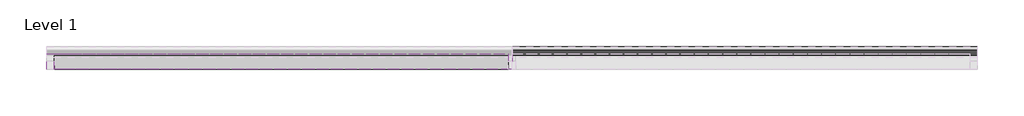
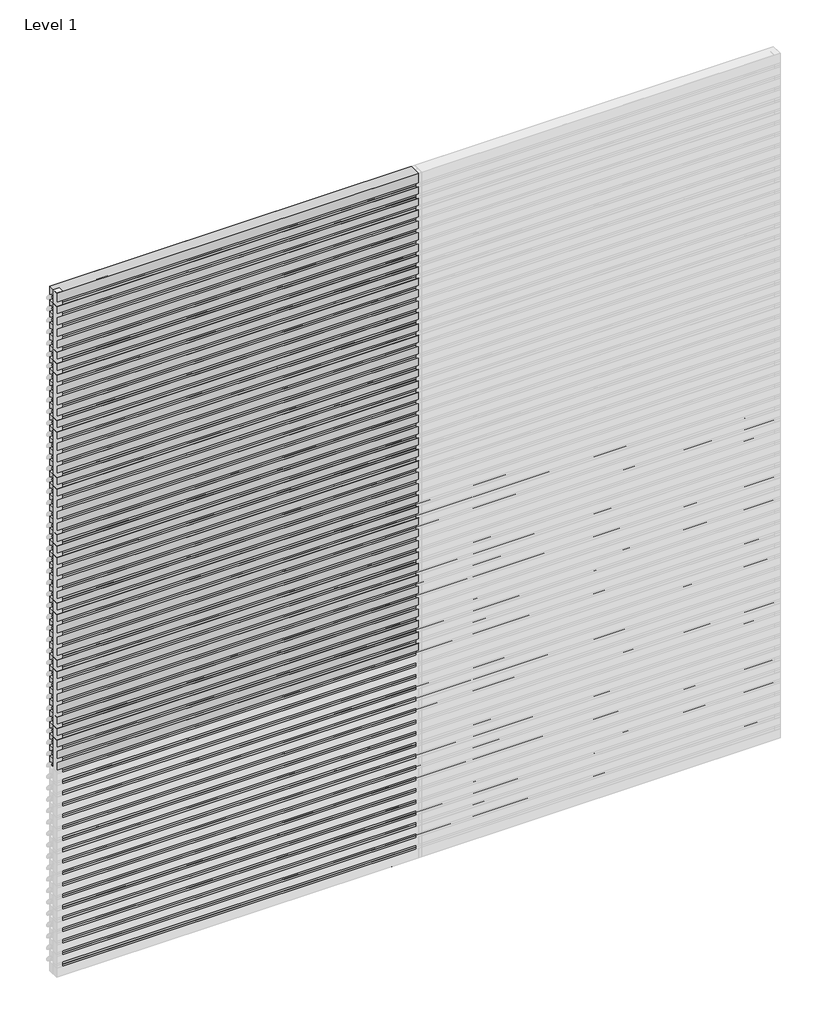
# One storey, part 2 of 4: 102 plates, 30 members.
"""IFC4 building model written with IfcOpenShell, lengths in millimetres."""

from ifc_helpers import new_model, si_unit, origin, place, context, project, spatial, transform, mapped, element, save
from components import rectangular_mullion_c274bac7, empty_system_panel_empty_03c9d606, empty_system_panel_empty_9aeebe66, empty_system_panel_empty_2f01619b

model = new_model("IFC4")

# Units and contexts
model_context = context("Model", 3, world=origin())
ifc_project = project(units=[si_unit("LENGTHUNIT", "METRE", prefix="MILLI")], contexts=[model_context])

# Site, building, storey
site = spatial("IfcSite", under=ifc_project)
building = spatial("IfcBuilding", under=site)
storey = spatial("IfcBuildingStorey", under=building, Name="Level 1", Elevation=0.0)

# Members
placement = place(None, origin())
rectangular_mullion_shape = rectangular_mullion_c274bac7(model_context)
element("IfcMember", 1, ObjectType="Rectangular Mullion : RSen_21_CWM_blade - 100 ellips - 45°_gen_duco projects", at=placement, inside=storey, context=model_context, shape_type="MappedRepresentation", body=[
    mapped(rectangular_mullion_shape, transform((3000.0, 3000.0, 100.0), x_axis=(0.0, 0.0, 1.0), y_axis=(0.0, 1.0, 0.0), z_axis=(-1.0, 0.0, 0.0))),
])
element("IfcMember", 2, ObjectType="Rectangular Mullion : RSen_21_CWM_blade - 100 ellips - 45°_gen_duco projects", at=placement, inside=storey, context=model_context, shape_type="MappedRepresentation", body=[
    mapped(rectangular_mullion_shape, transform((3000.0, 3000.0, 200.0), x_axis=(0.0, 0.0, 1.0), y_axis=(0.0, 1.0, 0.0), z_axis=(-1.0, 0.0, 0.0))),
])
element("IfcMember", 3, ObjectType="Rectangular Mullion : RSen_21_CWM_blade - 100 ellips - 45°_gen_duco projects", at=placement, inside=storey, context=model_context, shape_type="MappedRepresentation", body=[
    mapped(rectangular_mullion_shape, transform((3000.0, 3000.0, 300.0), x_axis=(0.0, 0.0, 1.0), y_axis=(0.0, 1.0, 0.0), z_axis=(-1.0, 0.0, 0.0))),
])
element("IfcMember", 4, ObjectType="Rectangular Mullion : RSen_21_CWM_blade - 100 ellips - 45°_gen_duco projects", at=placement, inside=storey, context=model_context, shape_type="MappedRepresentation", body=[
    mapped(rectangular_mullion_shape, transform((3000.0, 3000.0, 400.0), x_axis=(0.0, 0.0, 1.0), y_axis=(0.0, 1.0, 0.0), z_axis=(-1.0, 0.0, 0.0))),
])
element("IfcMember", 5, ObjectType="Rectangular Mullion : RSen_21_CWM_blade - 100 ellips - 45°_gen_duco projects", at=placement, inside=storey, context=model_context, shape_type="MappedRepresentation", body=[
    mapped(rectangular_mullion_shape, transform((3000.0, 3000.0, 500.0), x_axis=(0.0, 0.0, 1.0), y_axis=(0.0, 1.0, 0.0), z_axis=(-1.0, 0.0, 0.0))),
])
element("IfcMember", 6, ObjectType="Rectangular Mullion : RSen_21_CWM_blade - 100 ellips - 45°_gen_duco projects", at=placement, inside=storey, context=model_context, shape_type="MappedRepresentation", body=[
    mapped(rectangular_mullion_shape, transform((3000.0, 3000.0, 600.0), x_axis=(0.0, 0.0, 1.0), y_axis=(0.0, 1.0, 0.0), z_axis=(-1.0, 0.0, 0.0))),
])
element("IfcMember", 7, ObjectType="Rectangular Mullion : RSen_21_CWM_blade - 100 ellips - 45°_gen_duco projects", at=placement, inside=storey, context=model_context, shape_type="MappedRepresentation", body=[
    mapped(rectangular_mullion_shape, transform((3000.0, 3000.0, 700.0), x_axis=(0.0, 0.0, 1.0), y_axis=(0.0, 1.0, 0.0), z_axis=(-1.0, 0.0, 0.0))),
])
element("IfcMember", 8, ObjectType="Rectangular Mullion : RSen_21_CWM_blade - 100 ellips - 45°_gen_duco projects", at=placement, inside=storey, context=model_context, shape_type="MappedRepresentation", body=[
    mapped(rectangular_mullion_shape, transform((3000.0, 3000.0, 800.0), x_axis=(0.0, 0.0, 1.0), y_axis=(0.0, 1.0, 0.0), z_axis=(-1.0, 0.0, 0.0))),
])
element("IfcMember", 9, ObjectType="Rectangular Mullion : RSen_21_CWM_blade - 100 ellips - 45°_gen_duco projects", at=placement, inside=storey, context=model_context, shape_type="MappedRepresentation", body=[
    mapped(rectangular_mullion_shape, transform((3000.0, 3000.0, 900.0), x_axis=(0.0, 0.0, 1.0), y_axis=(0.0, 1.0, 0.0), z_axis=(-1.0, 0.0, 0.0))),
])
element("IfcMember", 10, ObjectType="Rectangular Mullion : RSen_21_CWM_blade - 100 ellips - 45°_gen_duco projects", at=placement, inside=storey, context=model_context, shape_type="MappedRepresentation", body=[
    mapped(rectangular_mullion_shape, transform((3000.0, 3000.0, 1000.0), x_axis=(0.0, 0.0, 1.0), y_axis=(0.0, 1.0, 0.0), z_axis=(-1.0, 0.0, 0.0))),
])
element("IfcMember", 11, ObjectType="Rectangular Mullion : RSen_21_CWM_blade - 100 ellips - 45°_gen_duco projects", at=placement, inside=storey, context=model_context, shape_type="MappedRepresentation", body=[
    mapped(rectangular_mullion_shape, transform((3000.0, 3000.0, 1100.0), x_axis=(0.0, 0.0, 1.0), y_axis=(0.0, 1.0, 0.0), z_axis=(-1.0, 0.0, 0.0))),
])
element("IfcMember", 12, ObjectType="Rectangular Mullion : RSen_21_CWM_blade - 100 ellips - 45°_gen_duco projects", at=placement, inside=storey, context=model_context, shape_type="MappedRepresentation", body=[
    mapped(rectangular_mullion_shape, transform((3000.0, 3000.0, 1200.0), x_axis=(0.0, 0.0, 1.0), y_axis=(0.0, 1.0, 0.0), z_axis=(-1.0, 0.0, 0.0))),
])
element("IfcMember", 13, ObjectType="Rectangular Mullion : RSen_21_CWM_blade - 100 ellips - 45°_gen_duco projects", at=placement, inside=storey, context=model_context, shape_type="MappedRepresentation", body=[
    mapped(rectangular_mullion_shape, transform((3000.0, 3000.0, 1300.0), x_axis=(0.0, 0.0, 1.0), y_axis=(0.0, 1.0, 0.0), z_axis=(-1.0, 0.0, 0.0))),
])
element("IfcMember", 14, ObjectType="Rectangular Mullion : RSen_21_CWM_blade - 100 ellips - 45°_gen_duco projects", at=placement, inside=storey, context=model_context, shape_type="MappedRepresentation", body=[
    mapped(rectangular_mullion_shape, transform((3000.0, 3000.0, 1400.0), x_axis=(0.0, 0.0, 1.0), y_axis=(0.0, 1.0, 0.0), z_axis=(-1.0, 0.0, 0.0))),
])
element("IfcMember", 15, ObjectType="Rectangular Mullion : RSen_21_CWM_blade - 100 ellips - 45°_gen_duco projects", at=placement, inside=storey, context=model_context, shape_type="MappedRepresentation", body=[
    mapped(rectangular_mullion_shape, transform((3000.0, 3000.0, 1500.0), x_axis=(0.0, 0.0, 1.0), y_axis=(0.0, 1.0, 0.0), z_axis=(-1.0, 0.0, 0.0))),
])
element("IfcMember", 16, ObjectType="Rectangular Mullion : RSen_21_CWM_blade - 100 ellips - 45°_gen_duco projects", at=placement, inside=storey, context=model_context, shape_type="MappedRepresentation", body=[
    mapped(rectangular_mullion_shape, transform((3000.0, 3000.0, 1600.0), x_axis=(0.0, 0.0, 1.0), y_axis=(0.0, 1.0, 0.0), z_axis=(-1.0, 0.0, 0.0))),
])
element("IfcMember", 17, ObjectType="Rectangular Mullion : RSen_21_CWM_blade - 100 ellips - 45°_gen_duco projects", at=placement, inside=storey, context=model_context, shape_type="MappedRepresentation", body=[
    mapped(rectangular_mullion_shape, transform((3000.0, 3000.0, 1700.0), x_axis=(0.0, 0.0, 1.0), y_axis=(0.0, 1.0, 0.0), z_axis=(-1.0, 0.0, 0.0))),
])
element("IfcMember", 18, ObjectType="Rectangular Mullion : RSen_21_CWM_blade - 100 ellips - 45°_gen_duco projects", at=placement, inside=storey, context=model_context, shape_type="MappedRepresentation", body=[
    mapped(rectangular_mullion_shape, transform((3000.0, 3000.0, 1800.0), x_axis=(0.0, 0.0, 1.0), y_axis=(0.0, 1.0, 0.0), z_axis=(-1.0, 0.0, 0.0))),
])
element("IfcMember", 19, ObjectType="Rectangular Mullion : RSen_21_CWM_blade - 100 ellips - 45°_gen_duco projects", at=placement, inside=storey, context=model_context, shape_type="MappedRepresentation", body=[
    mapped(rectangular_mullion_shape, transform((3000.0, 3000.0, 1900.0), x_axis=(0.0, 0.0, 1.0), y_axis=(0.0, 1.0, 0.0), z_axis=(-1.0, 0.0, 0.0))),
])
element("IfcMember", 20, ObjectType="Rectangular Mullion : RSen_21_CWM_blade - 100 ellips - 45°_gen_duco projects", at=placement, inside=storey, context=model_context, shape_type="MappedRepresentation", body=[
    mapped(rectangular_mullion_shape, transform((3000.0, 3000.0, 2000.0), x_axis=(0.0, 0.0, 1.0), y_axis=(0.0, 1.0, 0.0), z_axis=(-1.0, 0.0, 0.0))),
])
element("IfcMember", 21, ObjectType="Rectangular Mullion : RSen_21_CWM_blade - 100 ellips - 45°_gen_duco projects", at=placement, inside=storey, context=model_context, shape_type="MappedRepresentation", body=[
    mapped(rectangular_mullion_shape, transform((3000.0, 3000.0, 2100.0), x_axis=(0.0, 0.0, 1.0), y_axis=(0.0, 1.0, 0.0), z_axis=(-1.0, 0.0, 0.0))),
])
element("IfcMember", 22, ObjectType="Rectangular Mullion : RSen_21_CWM_blade - 100 ellips - 45°_gen_duco projects", at=placement, inside=storey, context=model_context, shape_type="MappedRepresentation", body=[
    mapped(rectangular_mullion_shape, transform((3000.0, 3000.0, 2200.0), x_axis=(0.0, 0.0, 1.0), y_axis=(0.0, 1.0, 0.0), z_axis=(-1.0, 0.0, 0.0))),
])
element("IfcMember", 23, ObjectType="Rectangular Mullion : RSen_21_CWM_blade - 100 ellips - 45°_gen_duco projects", at=placement, inside=storey, context=model_context, shape_type="MappedRepresentation", body=[
    mapped(rectangular_mullion_shape, transform((3000.0, 3000.0, 2300.0), x_axis=(0.0, 0.0, 1.0), y_axis=(0.0, 1.0, 0.0), z_axis=(-1.0, 0.0, 0.0))),
])
element("IfcMember", 24, ObjectType="Rectangular Mullion : RSen_21_CWM_blade - 100 ellips - 45°_gen_duco projects", at=placement, inside=storey, context=model_context, shape_type="MappedRepresentation", body=[
    mapped(rectangular_mullion_shape, transform((3000.0, 3000.0, 2400.0), x_axis=(0.0, 0.0, 1.0), y_axis=(0.0, 1.0, 0.0), z_axis=(-1.0, 0.0, 0.0))),
])
element("IfcMember", 25, ObjectType="Rectangular Mullion : RSen_21_CWM_blade - 100 ellips - 45°_gen_duco projects", at=placement, inside=storey, context=model_context, shape_type="MappedRepresentation", body=[
    mapped(rectangular_mullion_shape, transform((3000.0, 3000.0, 2500.0), x_axis=(0.0, 0.0, 1.0), y_axis=(0.0, 1.0, 0.0), z_axis=(-1.0, 0.0, 0.0))),
])
element("IfcMember", 26, ObjectType="Rectangular Mullion : RSen_21_CWM_blade - 100 ellips - 45°_gen_duco projects", at=placement, inside=storey, context=model_context, shape_type="MappedRepresentation", body=[
    mapped(rectangular_mullion_shape, transform((3000.0, 3000.0, 2600.0), x_axis=(0.0, 0.0, 1.0), y_axis=(0.0, 1.0, 0.0), z_axis=(-1.0, 0.0, 0.0))),
])
element("IfcMember", 27, ObjectType="Rectangular Mullion : RSen_21_CWM_blade - 100 ellips - 45°_gen_duco projects", at=placement, inside=storey, context=model_context, shape_type="MappedRepresentation", body=[
    mapped(rectangular_mullion_shape, transform((3000.0, 3000.0, 2700.0), x_axis=(0.0, 0.0, 1.0), y_axis=(0.0, 1.0, 0.0), z_axis=(-1.0, 0.0, 0.0))),
])
element("IfcMember", 28, ObjectType="Rectangular Mullion : RSen_21_CWM_blade - 100 ellips - 45°_gen_duco projects", at=placement, inside=storey, context=model_context, shape_type="MappedRepresentation", body=[
    mapped(rectangular_mullion_shape, transform((3000.0, 3000.0, 2800.0), x_axis=(0.0, 0.0, 1.0), y_axis=(0.0, 1.0, 0.0), z_axis=(-1.0, 0.0, 0.0))),
])
element("IfcMember", 29, ObjectType="Rectangular Mullion : RSen_21_CWM_blade - 100 ellips - 45°_gen_duco projects", at=placement, inside=storey, context=model_context, shape_type="MappedRepresentation", body=[
    mapped(rectangular_mullion_shape, transform((3000.0, 3000.0, 2900.0), x_axis=(0.0, 0.0, 1.0), y_axis=(0.0, 1.0, 0.0), z_axis=(-1.0, 0.0, 0.0))),
])
element("IfcMember", 30, ObjectType="Rectangular Mullion : RSen_21_CWM_blade - 100 ellips - 45°_gen_duco projects", at=placement, inside=storey, context=model_context, shape_type="MappedRepresentation", body=[
    mapped(rectangular_mullion_shape, transform((3000.0, 3000.0, 3000.0), x_axis=(0.0, 0.0, 1.0), y_axis=(0.0, 1.0, 0.0), z_axis=(-1.0, 0.0, 0.0))),
])

# Plates
empty_system_panel_empty_shape = empty_system_panel_empty_03c9d606(model_context)
element("IfcPlate", 31, ObjectType="Empty System Panel : Empty", at=placement, inside=storey, context=model_context, shape_type="MappedRepresentation", body=[
    mapped(empty_system_panel_empty_shape, transform((1500.0, 3000.0, 5918.3847763), x_axis=(-1.0, 0.0, 0.0), y_axis=(0.0, -1.0, 0.0), z_axis=(0.0, 0.0, 1.0))),
])
empty_system_panel_empty_2_shape = empty_system_panel_empty_9aeebe66(model_context)
element("IfcPlate", 32, ObjectType="Empty System Panel : Empty", at=placement, inside=storey, context=model_context, shape_type="MappedRepresentation", body=[
    mapped(empty_system_panel_empty_2_shape, transform((1500.0, 3000.0, 1818.3847763), x_axis=(-1.0, 0.0, 0.0), y_axis=(0.0, -1.0, 0.0), z_axis=(0.0, 0.0, 1.0))),
])
element("IfcPlate", 33, ObjectType="Empty System Panel : Empty", at=placement, inside=storey, context=model_context, shape_type="MappedRepresentation", body=[
    mapped(empty_system_panel_empty_2_shape, transform((1500.0, 3000.0, 1918.3847763), x_axis=(-1.0, 0.0, 0.0), y_axis=(0.0, -1.0, 0.0), z_axis=(0.0, 0.0, 1.0))),
])
element("IfcPlate", 34, ObjectType="Empty System Panel : Empty", at=placement, inside=storey, context=model_context, shape_type="MappedRepresentation", body=[
    mapped(empty_system_panel_empty_2_shape, transform((1500.0, 3000.0, 2018.3847763), x_axis=(-1.0, 0.0, 0.0), y_axis=(0.0, -1.0, 0.0), z_axis=(0.0, 0.0, 1.0))),
])
element("IfcPlate", 35, ObjectType="Empty System Panel : Empty", at=placement, inside=storey, context=model_context, shape_type="MappedRepresentation", body=[
    mapped(empty_system_panel_empty_2_shape, transform((1500.0, 3000.0, 2118.3847763), x_axis=(-1.0, 0.0, 0.0), y_axis=(0.0, -1.0, 0.0), z_axis=(0.0, 0.0, 1.0))),
])
element("IfcPlate", 36, ObjectType="Empty System Panel : Empty", at=placement, inside=storey, context=model_context, shape_type="MappedRepresentation", body=[
    mapped(empty_system_panel_empty_2_shape, transform((1500.0, 3000.0, 2218.3847763), x_axis=(-1.0, 0.0, 0.0), y_axis=(0.0, -1.0, 0.0), z_axis=(0.0, 0.0, 1.0))),
])
element("IfcPlate", 37, ObjectType="Empty System Panel : Empty", at=placement, inside=storey, context=model_context, shape_type="MappedRepresentation", body=[
    mapped(empty_system_panel_empty_2_shape, transform((1500.0, 3000.0, 2318.3847763), x_axis=(-1.0, 0.0, 0.0), y_axis=(0.0, -1.0, 0.0), z_axis=(0.0, 0.0, 1.0))),
])
element("IfcPlate", 38, ObjectType="Empty System Panel : Empty", at=placement, inside=storey, context=model_context, shape_type="MappedRepresentation", body=[
    mapped(empty_system_panel_empty_2_shape, transform((1500.0, 3000.0, 2418.3847763), x_axis=(-1.0, 0.0, 0.0), y_axis=(0.0, -1.0, 0.0), z_axis=(0.0, 0.0, 1.0))),
])
element("IfcPlate", 39, ObjectType="Empty System Panel : Empty", at=placement, inside=storey, context=model_context, shape_type="MappedRepresentation", body=[
    mapped(empty_system_panel_empty_2_shape, transform((1500.0, 3000.0, 2518.3847763), x_axis=(-1.0, 0.0, 0.0), y_axis=(0.0, -1.0, 0.0), z_axis=(0.0, 0.0, 1.0))),
])
element("IfcPlate", 40, ObjectType="Empty System Panel : Empty", at=placement, inside=storey, context=model_context, shape_type="MappedRepresentation", body=[
    mapped(empty_system_panel_empty_2_shape, transform((1500.0, 3000.0, 2618.3847763), x_axis=(-1.0, 0.0, 0.0), y_axis=(0.0, -1.0, 0.0), z_axis=(0.0, 0.0, 1.0))),
])
element("IfcPlate", 41, ObjectType="Empty System Panel : Empty", at=placement, inside=storey, context=model_context, shape_type="MappedRepresentation", body=[
    mapped(empty_system_panel_empty_2_shape, transform((1500.0, 3000.0, 2718.3847763), x_axis=(-1.0, 0.0, 0.0), y_axis=(0.0, -1.0, 0.0), z_axis=(0.0, 0.0, 1.0))),
])
element("IfcPlate", 42, ObjectType="Empty System Panel : Empty", at=placement, inside=storey, context=model_context, shape_type="MappedRepresentation", body=[
    mapped(empty_system_panel_empty_2_shape, transform((1500.0, 3000.0, 2818.3847763), x_axis=(-1.0, 0.0, 0.0), y_axis=(0.0, -1.0, 0.0), z_axis=(0.0, 0.0, 1.0))),
])
element("IfcPlate", 43, ObjectType="Empty System Panel : Empty", at=placement, inside=storey, context=model_context, shape_type="MappedRepresentation", body=[
    mapped(empty_system_panel_empty_2_shape, transform((1500.0, 3000.0, 2918.3847763), x_axis=(-1.0, 0.0, 0.0), y_axis=(0.0, -1.0, 0.0), z_axis=(0.0, 0.0, 1.0))),
])
element("IfcPlate", 44, ObjectType="Empty System Panel : Empty", at=placement, inside=storey, context=model_context, shape_type="MappedRepresentation", body=[
    mapped(empty_system_panel_empty_2_shape, transform((1500.0, 3000.0, 3018.3847763), x_axis=(-1.0, 0.0, 0.0), y_axis=(0.0, -1.0, 0.0), z_axis=(0.0, 0.0, 1.0))),
])
element("IfcPlate", 45, ObjectType="Empty System Panel : Empty", at=placement, inside=storey, context=model_context, shape_type="MappedRepresentation", body=[
    mapped(empty_system_panel_empty_2_shape, transform((1500.0, 3000.0, 3118.3847763), x_axis=(-1.0, 0.0, 0.0), y_axis=(0.0, -1.0, 0.0), z_axis=(0.0, 0.0, 1.0))),
])
element("IfcPlate", 46, ObjectType="Empty System Panel : Empty", at=placement, inside=storey, context=model_context, shape_type="MappedRepresentation", body=[
    mapped(empty_system_panel_empty_2_shape, transform((1500.0, 3000.0, 3218.3847763), x_axis=(-1.0, 0.0, 0.0), y_axis=(0.0, -1.0, 0.0), z_axis=(0.0, 0.0, 1.0))),
])
element("IfcPlate", 47, ObjectType="Empty System Panel : Empty", at=placement, inside=storey, context=model_context, shape_type="MappedRepresentation", body=[
    mapped(empty_system_panel_empty_2_shape, transform((1500.0, 3000.0, 3318.3847763), x_axis=(-1.0, 0.0, 0.0), y_axis=(0.0, -1.0, 0.0), z_axis=(0.0, 0.0, 1.0))),
])
element("IfcPlate", 48, ObjectType="Empty System Panel : Empty", at=placement, inside=storey, context=model_context, shape_type="MappedRepresentation", body=[
    mapped(empty_system_panel_empty_2_shape, transform((1500.0, 3000.0, 3418.3847763), x_axis=(-1.0, 0.0, 0.0), y_axis=(0.0, -1.0, 0.0), z_axis=(0.0, 0.0, 1.0))),
])
element("IfcPlate", 49, ObjectType="Empty System Panel : Empty", at=placement, inside=storey, context=model_context, shape_type="MappedRepresentation", body=[
    mapped(empty_system_panel_empty_2_shape, transform((1500.0, 3000.0, 3518.3847763), x_axis=(-1.0, 0.0, 0.0), y_axis=(0.0, -1.0, 0.0), z_axis=(0.0, 0.0, 1.0))),
])
element("IfcPlate", 50, ObjectType="Empty System Panel : Empty", at=placement, inside=storey, context=model_context, shape_type="MappedRepresentation", body=[
    mapped(empty_system_panel_empty_2_shape, transform((1500.0, 3000.0, 3618.3847763), x_axis=(-1.0, 0.0, 0.0), y_axis=(0.0, -1.0, 0.0), z_axis=(0.0, 0.0, 1.0))),
])
element("IfcPlate", 51, ObjectType="Empty System Panel : Empty", at=placement, inside=storey, context=model_context, shape_type="MappedRepresentation", body=[
    mapped(empty_system_panel_empty_2_shape, transform((1500.0, 3000.0, 3718.3847763), x_axis=(-1.0, 0.0, 0.0), y_axis=(0.0, -1.0, 0.0), z_axis=(0.0, 0.0, 1.0))),
])
element("IfcPlate", 52, ObjectType="Empty System Panel : Empty", at=placement, inside=storey, context=model_context, shape_type="MappedRepresentation", body=[
    mapped(empty_system_panel_empty_2_shape, transform((1500.0, 3000.0, 3818.3847763), x_axis=(-1.0, 0.0, 0.0), y_axis=(0.0, -1.0, 0.0), z_axis=(0.0, 0.0, 1.0))),
])
element("IfcPlate", 53, ObjectType="Empty System Panel : Empty", at=placement, inside=storey, context=model_context, shape_type="MappedRepresentation", body=[
    mapped(empty_system_panel_empty_2_shape, transform((1500.0, 3000.0, 3918.3847763), x_axis=(-1.0, 0.0, 0.0), y_axis=(0.0, -1.0, 0.0), z_axis=(0.0, 0.0, 1.0))),
])
element("IfcPlate", 54, ObjectType="Empty System Panel : Empty", at=placement, inside=storey, context=model_context, shape_type="MappedRepresentation", body=[
    mapped(empty_system_panel_empty_2_shape, transform((1500.0, 3000.0, 4018.3847763), x_axis=(-1.0, 0.0, 0.0), y_axis=(0.0, -1.0, 0.0), z_axis=(0.0, 0.0, 1.0))),
])
element("IfcPlate", 55, ObjectType="Empty System Panel : Empty", at=placement, inside=storey, context=model_context, shape_type="MappedRepresentation", body=[
    mapped(empty_system_panel_empty_2_shape, transform((1500.0, 3000.0, 4118.3847763), x_axis=(-1.0, 0.0, 0.0), y_axis=(0.0, -1.0, 0.0), z_axis=(0.0, 0.0, 1.0))),
])
element("IfcPlate", 56, ObjectType="Empty System Panel : Empty", at=placement, inside=storey, context=model_context, shape_type="MappedRepresentation", body=[
    mapped(empty_system_panel_empty_2_shape, transform((1500.0, 3000.0, 4218.3847763), x_axis=(-1.0, 0.0, 0.0), y_axis=(0.0, -1.0, 0.0), z_axis=(0.0, 0.0, 1.0))),
])
element("IfcPlate", 57, ObjectType="Empty System Panel : Empty", at=placement, inside=storey, context=model_context, shape_type="MappedRepresentation", body=[
    mapped(empty_system_panel_empty_2_shape, transform((1500.0, 3000.0, 4318.3847763), x_axis=(-1.0, 0.0, 0.0), y_axis=(0.0, -1.0, 0.0), z_axis=(0.0, 0.0, 1.0))),
])
element("IfcPlate", 58, ObjectType="Empty System Panel : Empty", at=placement, inside=storey, context=model_context, shape_type="MappedRepresentation", body=[
    mapped(empty_system_panel_empty_2_shape, transform((1500.0, 3000.0, 4418.3847763), x_axis=(-1.0, 0.0, 0.0), y_axis=(0.0, -1.0, 0.0), z_axis=(0.0, 0.0, 1.0))),
])
element("IfcPlate", 59, ObjectType="Empty System Panel : Empty", at=placement, inside=storey, context=model_context, shape_type="MappedRepresentation", body=[
    mapped(empty_system_panel_empty_2_shape, transform((1500.0, 3000.0, 4518.3847763), x_axis=(-1.0, 0.0, 0.0), y_axis=(0.0, -1.0, 0.0), z_axis=(0.0, 0.0, 1.0))),
])
element("IfcPlate", 60, ObjectType="Empty System Panel : Empty", at=placement, inside=storey, context=model_context, shape_type="MappedRepresentation", body=[
    mapped(empty_system_panel_empty_2_shape, transform((1500.0, 3000.0, 4618.3847763), x_axis=(-1.0, 0.0, 0.0), y_axis=(0.0, -1.0, 0.0), z_axis=(0.0, 0.0, 1.0))),
])
element("IfcPlate", 61, ObjectType="Empty System Panel : Empty", at=placement, inside=storey, context=model_context, shape_type="MappedRepresentation", body=[
    mapped(empty_system_panel_empty_2_shape, transform((1500.0, 3000.0, 4718.3847763), x_axis=(-1.0, 0.0, 0.0), y_axis=(0.0, -1.0, 0.0), z_axis=(0.0, 0.0, 1.0))),
])
element("IfcPlate", 62, ObjectType="Empty System Panel : Empty", at=placement, inside=storey, context=model_context, shape_type="MappedRepresentation", body=[
    mapped(empty_system_panel_empty_2_shape, transform((1500.0, 3000.0, 4818.3847763), x_axis=(-1.0, 0.0, 0.0), y_axis=(0.0, -1.0, 0.0), z_axis=(0.0, 0.0, 1.0))),
])
element("IfcPlate", 63, ObjectType="Empty System Panel : Empty", at=placement, inside=storey, context=model_context, shape_type="MappedRepresentation", body=[
    mapped(empty_system_panel_empty_2_shape, transform((1500.0, 3000.0, 4918.3847763), x_axis=(-1.0, 0.0, 0.0), y_axis=(0.0, -1.0, 0.0), z_axis=(0.0, 0.0, 1.0))),
])
element("IfcPlate", 64, ObjectType="Empty System Panel : Empty", at=placement, inside=storey, context=model_context, shape_type="MappedRepresentation", body=[
    mapped(empty_system_panel_empty_2_shape, transform((1500.0, 3000.0, 5018.3847763), x_axis=(-1.0, 0.0, 0.0), y_axis=(0.0, -1.0, 0.0), z_axis=(0.0, 0.0, 1.0))),
])
element("IfcPlate", 65, ObjectType="Empty System Panel : Empty", at=placement, inside=storey, context=model_context, shape_type="MappedRepresentation", body=[
    mapped(empty_system_panel_empty_2_shape, transform((1500.0, 3000.0, 5118.3847763), x_axis=(-1.0, 0.0, 0.0), y_axis=(0.0, -1.0, 0.0), z_axis=(0.0, 0.0, 1.0))),
])
element("IfcPlate", 66, ObjectType="Empty System Panel : Empty", at=placement, inside=storey, context=model_context, shape_type="MappedRepresentation", body=[
    mapped(empty_system_panel_empty_2_shape, transform((1500.0, 3000.0, 5218.3847763), x_axis=(-1.0, 0.0, 0.0), y_axis=(0.0, -1.0, 0.0), z_axis=(0.0, 0.0, 1.0))),
])
element("IfcPlate", 67, ObjectType="Empty System Panel : Empty", at=placement, inside=storey, context=model_context, shape_type="MappedRepresentation", body=[
    mapped(empty_system_panel_empty_2_shape, transform((1500.0, 3000.0, 5318.3847763), x_axis=(-1.0, 0.0, 0.0), y_axis=(0.0, -1.0, 0.0), z_axis=(0.0, 0.0, 1.0))),
])
element("IfcPlate", 68, ObjectType="Empty System Panel : Empty", at=placement, inside=storey, context=model_context, shape_type="MappedRepresentation", body=[
    mapped(empty_system_panel_empty_2_shape, transform((1500.0, 3000.0, 5418.3847763), x_axis=(-1.0, 0.0, 0.0), y_axis=(0.0, -1.0, 0.0), z_axis=(0.0, 0.0, 1.0))),
])
element("IfcPlate", 69, ObjectType="Empty System Panel : Empty", at=placement, inside=storey, context=model_context, shape_type="MappedRepresentation", body=[
    mapped(empty_system_panel_empty_2_shape, transform((1500.0, 3000.0, 5518.3847763), x_axis=(-1.0, 0.0, 0.0), y_axis=(0.0, -1.0, 0.0), z_axis=(0.0, 0.0, 1.0))),
])
element("IfcPlate", 70, ObjectType="Empty System Panel : Empty", at=placement, inside=storey, context=model_context, shape_type="MappedRepresentation", body=[
    mapped(empty_system_panel_empty_2_shape, transform((1500.0, 3000.0, 5618.3847763), x_axis=(-1.0, 0.0, 0.0), y_axis=(0.0, -1.0, 0.0), z_axis=(0.0, 0.0, 1.0))),
])
element("IfcPlate", 71, ObjectType="Empty System Panel : Empty", at=placement, inside=storey, context=model_context, shape_type="MappedRepresentation", body=[
    mapped(empty_system_panel_empty_2_shape, transform((1500.0, 3000.0, 5718.3847763), x_axis=(-1.0, 0.0, 0.0), y_axis=(0.0, -1.0, 0.0), z_axis=(0.0, 0.0, 1.0))),
])
element("IfcPlate", 72, ObjectType="Empty System Panel : Empty", at=placement, inside=storey, context=model_context, shape_type="MappedRepresentation", body=[
    mapped(empty_system_panel_empty_2_shape, transform((1500.0, 3000.0, 5818.3847763), x_axis=(-1.0, 0.0, 0.0), y_axis=(0.0, -1.0, 0.0), z_axis=(0.0, 0.0, 1.0))),
])
empty_system_panel_empty_3_shape = empty_system_panel_empty_2f01619b(model_context)
element("IfcPlate", 73, ObjectType="Empty System Panel : Empty", at=placement, inside=storey, context=model_context, shape_type="MappedRepresentation", body=[
    mapped(empty_system_panel_empty_3_shape, transform((1512.5, 3000.0, 0.0), x_axis=(-1.0, 0.0, 0.0), y_axis=(0.0, -1.0, 0.0), z_axis=(0.0, 0.0, 1.0))),
])
element("IfcPlate", 74, ObjectType="Empty System Panel : Empty", at=placement, inside=storey, context=model_context, shape_type="MappedRepresentation", body=[
    mapped(empty_system_panel_empty_3_shape, transform((1512.5, 3000.0, 100.0), x_axis=(-1.0, 0.0, 0.0), y_axis=(0.0, -1.0, 0.0), z_axis=(0.0, 0.0, 1.0))),
])
element("IfcPlate", 75, ObjectType="Empty System Panel : Empty", at=placement, inside=storey, context=model_context, shape_type="MappedRepresentation", body=[
    mapped(empty_system_panel_empty_3_shape, transform((1512.5, 3000.0, 200.0), x_axis=(-1.0, 0.0, 0.0), y_axis=(0.0, -1.0, 0.0), z_axis=(0.0, 0.0, 1.0))),
])
element("IfcPlate", 76, ObjectType="Empty System Panel : Empty", at=placement, inside=storey, context=model_context, shape_type="MappedRepresentation", body=[
    mapped(empty_system_panel_empty_3_shape, transform((1512.5, 3000.0, 300.0), x_axis=(-1.0, 0.0, 0.0), y_axis=(0.0, -1.0, 0.0), z_axis=(0.0, 0.0, 1.0))),
])
element("IfcPlate", 77, ObjectType="Empty System Panel : Empty", at=placement, inside=storey, context=model_context, shape_type="MappedRepresentation", body=[
    mapped(empty_system_panel_empty_3_shape, transform((1512.5, 3000.0, 400.0), x_axis=(-1.0, 0.0, 0.0), y_axis=(0.0, -1.0, 0.0), z_axis=(0.0, 0.0, 1.0))),
])
element("IfcPlate", 78, ObjectType="Empty System Panel : Empty", at=placement, inside=storey, context=model_context, shape_type="MappedRepresentation", body=[
    mapped(empty_system_panel_empty_3_shape, transform((1512.5, 3000.0, 500.0), x_axis=(-1.0, 0.0, 0.0), y_axis=(0.0, -1.0, 0.0), z_axis=(0.0, 0.0, 1.0))),
])
element("IfcPlate", 79, ObjectType="Empty System Panel : Empty", at=placement, inside=storey, context=model_context, shape_type="MappedRepresentation", body=[
    mapped(empty_system_panel_empty_3_shape, transform((1512.5, 3000.0, 600.0), x_axis=(-1.0, 0.0, 0.0), y_axis=(0.0, -1.0, 0.0), z_axis=(0.0, 0.0, 1.0))),
])
element("IfcPlate", 80, ObjectType="Empty System Panel : Empty", at=placement, inside=storey, context=model_context, shape_type="MappedRepresentation", body=[
    mapped(empty_system_panel_empty_3_shape, transform((1512.5, 3000.0, 700.0), x_axis=(-1.0, 0.0, 0.0), y_axis=(0.0, -1.0, 0.0), z_axis=(0.0, 0.0, 1.0))),
])
element("IfcPlate", 81, ObjectType="Empty System Panel : Empty", at=placement, inside=storey, context=model_context, shape_type="MappedRepresentation", body=[
    mapped(empty_system_panel_empty_3_shape, transform((1512.5, 3000.0, 800.0), x_axis=(-1.0, 0.0, 0.0), y_axis=(0.0, -1.0, 0.0), z_axis=(0.0, 0.0, 1.0))),
])
element("IfcPlate", 82, ObjectType="Empty System Panel : Empty", at=placement, inside=storey, context=model_context, shape_type="MappedRepresentation", body=[
    mapped(empty_system_panel_empty_3_shape, transform((1512.5, 3000.0, 900.0), x_axis=(-1.0, 0.0, 0.0), y_axis=(0.0, -1.0, 0.0), z_axis=(0.0, 0.0, 1.0))),
])
element("IfcPlate", 83, ObjectType="Empty System Panel : Empty", at=placement, inside=storey, context=model_context, shape_type="MappedRepresentation", body=[
    mapped(empty_system_panel_empty_3_shape, transform((1512.5, 3000.0, 1000.0), x_axis=(-1.0, 0.0, 0.0), y_axis=(0.0, -1.0, 0.0), z_axis=(0.0, 0.0, 1.0))),
])
element("IfcPlate", 84, ObjectType="Empty System Panel : Empty", at=placement, inside=storey, context=model_context, shape_type="MappedRepresentation", body=[
    mapped(empty_system_panel_empty_3_shape, transform((1512.5, 3000.0, 1100.0), x_axis=(-1.0, 0.0, 0.0), y_axis=(0.0, -1.0, 0.0), z_axis=(0.0, 0.0, 1.0))),
])
element("IfcPlate", 85, ObjectType="Empty System Panel : Empty", at=placement, inside=storey, context=model_context, shape_type="MappedRepresentation", body=[
    mapped(empty_system_panel_empty_3_shape, transform((1512.5, 3000.0, 1200.0), x_axis=(-1.0, 0.0, 0.0), y_axis=(0.0, -1.0, 0.0), z_axis=(0.0, 0.0, 1.0))),
])
element("IfcPlate", 86, ObjectType="Empty System Panel : Empty", at=placement, inside=storey, context=model_context, shape_type="MappedRepresentation", body=[
    mapped(empty_system_panel_empty_3_shape, transform((1512.5, 3000.0, 1300.0), x_axis=(-1.0, 0.0, 0.0), y_axis=(0.0, -1.0, 0.0), z_axis=(0.0, 0.0, 1.0))),
])
element("IfcPlate", 87, ObjectType="Empty System Panel : Empty", at=placement, inside=storey, context=model_context, shape_type="MappedRepresentation", body=[
    mapped(empty_system_panel_empty_3_shape, transform((1512.5, 3000.0, 1400.0), x_axis=(-1.0, 0.0, 0.0), y_axis=(0.0, -1.0, 0.0), z_axis=(0.0, 0.0, 1.0))),
])
element("IfcPlate", 88, ObjectType="Empty System Panel : Empty", at=placement, inside=storey, context=model_context, shape_type="MappedRepresentation", body=[
    mapped(empty_system_panel_empty_3_shape, transform((1512.5, 3000.0, 1500.0), x_axis=(-1.0, 0.0, 0.0), y_axis=(0.0, -1.0, 0.0), z_axis=(0.0, 0.0, 1.0))),
])
element("IfcPlate", 89, ObjectType="Empty System Panel : Empty", at=placement, inside=storey, context=model_context, shape_type="MappedRepresentation", body=[
    mapped(empty_system_panel_empty_3_shape, transform((1512.5, 3000.0, 1600.0), x_axis=(-1.0, 0.0, 0.0), y_axis=(0.0, -1.0, 0.0), z_axis=(0.0, 0.0, 1.0))),
])
element("IfcPlate", 90, ObjectType="Empty System Panel : Empty", at=placement, inside=storey, context=model_context, shape_type="MappedRepresentation", body=[
    mapped(empty_system_panel_empty_3_shape, transform((1512.5, 3000.0, 1700.0), x_axis=(-1.0, 0.0, 0.0), y_axis=(0.0, -1.0, 0.0), z_axis=(0.0, 0.0, 1.0))),
])
element("IfcPlate", 91, ObjectType="Empty System Panel : Empty", at=placement, inside=storey, context=model_context, shape_type="MappedRepresentation", body=[
    mapped(empty_system_panel_empty_3_shape, transform((1512.5, 3000.0, 1800.0), x_axis=(-1.0, 0.0, 0.0), y_axis=(0.0, -1.0, 0.0), z_axis=(0.0, 0.0, 1.0))),
])
element("IfcPlate", 92, ObjectType="Empty System Panel : Empty", at=placement, inside=storey, context=model_context, shape_type="MappedRepresentation", body=[
    mapped(empty_system_panel_empty_3_shape, transform((1512.5, 3000.0, 1900.0), x_axis=(-1.0, 0.0, 0.0), y_axis=(0.0, -1.0, 0.0), z_axis=(0.0, 0.0, 1.0))),
])
element("IfcPlate", 93, ObjectType="Empty System Panel : Empty", at=placement, inside=storey, context=model_context, shape_type="MappedRepresentation", body=[
    mapped(empty_system_panel_empty_3_shape, transform((1512.5, 3000.0, 2000.0), x_axis=(-1.0, 0.0, 0.0), y_axis=(0.0, -1.0, 0.0), z_axis=(0.0, 0.0, 1.0))),
])
element("IfcPlate", 94, ObjectType="Empty System Panel : Empty", at=placement, inside=storey, context=model_context, shape_type="MappedRepresentation", body=[
    mapped(empty_system_panel_empty_3_shape, transform((1512.5, 3000.0, 2100.0), x_axis=(-1.0, 0.0, 0.0), y_axis=(0.0, -1.0, 0.0), z_axis=(0.0, 0.0, 1.0))),
])
element("IfcPlate", 95, ObjectType="Empty System Panel : Empty", at=placement, inside=storey, context=model_context, shape_type="MappedRepresentation", body=[
    mapped(empty_system_panel_empty_3_shape, transform((1512.5, 3000.0, 2200.0), x_axis=(-1.0, 0.0, 0.0), y_axis=(0.0, -1.0, 0.0), z_axis=(0.0, 0.0, 1.0))),
])
element("IfcPlate", 96, ObjectType="Empty System Panel : Empty", at=placement, inside=storey, context=model_context, shape_type="MappedRepresentation", body=[
    mapped(empty_system_panel_empty_3_shape, transform((1512.5, 3000.0, 2300.0), x_axis=(-1.0, 0.0, 0.0), y_axis=(0.0, -1.0, 0.0), z_axis=(0.0, 0.0, 1.0))),
])
element("IfcPlate", 97, ObjectType="Empty System Panel : Empty", at=placement, inside=storey, context=model_context, shape_type="MappedRepresentation", body=[
    mapped(empty_system_panel_empty_3_shape, transform((1512.5, 3000.0, 2400.0), x_axis=(-1.0, 0.0, 0.0), y_axis=(0.0, -1.0, 0.0), z_axis=(0.0, 0.0, 1.0))),
])
element("IfcPlate", 98, ObjectType="Empty System Panel : Empty", at=placement, inside=storey, context=model_context, shape_type="MappedRepresentation", body=[
    mapped(empty_system_panel_empty_3_shape, transform((1512.5, 3000.0, 2500.0), x_axis=(-1.0, 0.0, 0.0), y_axis=(0.0, -1.0, 0.0), z_axis=(0.0, 0.0, 1.0))),
])
element("IfcPlate", 99, ObjectType="Empty System Panel : Empty", at=placement, inside=storey, context=model_context, shape_type="MappedRepresentation", body=[
    mapped(empty_system_panel_empty_3_shape, transform((1512.5, 3000.0, 2600.0), x_axis=(-1.0, 0.0, 0.0), y_axis=(0.0, -1.0, 0.0), z_axis=(0.0, 0.0, 1.0))),
])
element("IfcPlate", 100, ObjectType="Empty System Panel : Empty", at=placement, inside=storey, context=model_context, shape_type="MappedRepresentation", body=[
    mapped(empty_system_panel_empty_3_shape, transform((1512.5, 3000.0, 2700.0), x_axis=(-1.0, 0.0, 0.0), y_axis=(0.0, -1.0, 0.0), z_axis=(0.0, 0.0, 1.0))),
])
element("IfcPlate", 101, ObjectType="Empty System Panel : Empty", at=placement, inside=storey, context=model_context, shape_type="MappedRepresentation", body=[
    mapped(empty_system_panel_empty_3_shape, transform((1512.5, 3000.0, 2800.0), x_axis=(-1.0, 0.0, 0.0), y_axis=(0.0, -1.0, 0.0), z_axis=(0.0, 0.0, 1.0))),
])
element("IfcPlate", 102, ObjectType="Empty System Panel : Empty", at=placement, inside=storey, context=model_context, shape_type="MappedRepresentation", body=[
    mapped(empty_system_panel_empty_3_shape, transform((1512.5, 3000.0, 2900.0), x_axis=(-1.0, 0.0, 0.0), y_axis=(0.0, -1.0, 0.0), z_axis=(0.0, 0.0, 1.0))),
])
element("IfcPlate", 103, ObjectType="Empty System Panel : Empty", at=placement, inside=storey, context=model_context, shape_type="MappedRepresentation", body=[
    mapped(empty_system_panel_empty_3_shape, transform((1512.5, 3000.0, 3000.0), x_axis=(-1.0, 0.0, 0.0), y_axis=(0.0, -1.0, 0.0), z_axis=(0.0, 0.0, 1.0))),
])
element("IfcPlate", 104, ObjectType="Empty System Panel : Empty", at=placement, inside=storey, context=model_context, shape_type="MappedRepresentation", body=[
    mapped(empty_system_panel_empty_3_shape, transform((1512.5, 3000.0, 3100.0), x_axis=(-1.0, 0.0, 0.0), y_axis=(0.0, -1.0, 0.0), z_axis=(0.0, 0.0, 1.0))),
])
element("IfcPlate", 105, ObjectType="Empty System Panel : Empty", at=placement, inside=storey, context=model_context, shape_type="MappedRepresentation", body=[
    mapped(empty_system_panel_empty_3_shape, transform((1512.5, 3000.0, 3200.0), x_axis=(-1.0, 0.0, 0.0), y_axis=(0.0, -1.0, 0.0), z_axis=(0.0, 0.0, 1.0))),
])
element("IfcPlate", 106, ObjectType="Empty System Panel : Empty", at=placement, inside=storey, context=model_context, shape_type="MappedRepresentation", body=[
    mapped(empty_system_panel_empty_3_shape, transform((1512.5, 3000.0, 3300.0), x_axis=(-1.0, 0.0, 0.0), y_axis=(0.0, -1.0, 0.0), z_axis=(0.0, 0.0, 1.0))),
])
element("IfcPlate", 107, ObjectType="Empty System Panel : Empty", at=placement, inside=storey, context=model_context, shape_type="MappedRepresentation", body=[
    mapped(empty_system_panel_empty_3_shape, transform((1512.5, 3000.0, 3400.0), x_axis=(-1.0, 0.0, 0.0), y_axis=(0.0, -1.0, 0.0), z_axis=(0.0, 0.0, 1.0))),
])
element("IfcPlate", 108, ObjectType="Empty System Panel : Empty", at=placement, inside=storey, context=model_context, shape_type="MappedRepresentation", body=[
    mapped(empty_system_panel_empty_3_shape, transform((1512.5, 3000.0, 3500.0), x_axis=(-1.0, 0.0, 0.0), y_axis=(0.0, -1.0, 0.0), z_axis=(0.0, 0.0, 1.0))),
])
element("IfcPlate", 109, ObjectType="Empty System Panel : Empty", at=placement, inside=storey, context=model_context, shape_type="MappedRepresentation", body=[
    mapped(empty_system_panel_empty_3_shape, transform((1512.5, 3000.0, 3600.0), x_axis=(-1.0, 0.0, 0.0), y_axis=(0.0, -1.0, 0.0), z_axis=(0.0, 0.0, 1.0))),
])
element("IfcPlate", 110, ObjectType="Empty System Panel : Empty", at=placement, inside=storey, context=model_context, shape_type="MappedRepresentation", body=[
    mapped(empty_system_panel_empty_3_shape, transform((1512.5, 3000.0, 3700.0), x_axis=(-1.0, 0.0, 0.0), y_axis=(0.0, -1.0, 0.0), z_axis=(0.0, 0.0, 1.0))),
])
element("IfcPlate", 111, ObjectType="Empty System Panel : Empty", at=placement, inside=storey, context=model_context, shape_type="MappedRepresentation", body=[
    mapped(empty_system_panel_empty_3_shape, transform((1512.5, 3000.0, 3800.0), x_axis=(-1.0, 0.0, 0.0), y_axis=(0.0, -1.0, 0.0), z_axis=(0.0, 0.0, 1.0))),
])
element("IfcPlate", 112, ObjectType="Empty System Panel : Empty", at=placement, inside=storey, context=model_context, shape_type="MappedRepresentation", body=[
    mapped(empty_system_panel_empty_3_shape, transform((1512.5, 3000.0, 3900.0), x_axis=(-1.0, 0.0, 0.0), y_axis=(0.0, -1.0, 0.0), z_axis=(0.0, 0.0, 1.0))),
])
element("IfcPlate", 113, ObjectType="Empty System Panel : Empty", at=placement, inside=storey, context=model_context, shape_type="MappedRepresentation", body=[
    mapped(empty_system_panel_empty_3_shape, transform((1512.5, 3000.0, 4000.0), x_axis=(-1.0, 0.0, 0.0), y_axis=(0.0, -1.0, 0.0), z_axis=(0.0, 0.0, 1.0))),
])
element("IfcPlate", 114, ObjectType="Empty System Panel : Empty", at=placement, inside=storey, context=model_context, shape_type="MappedRepresentation", body=[
    mapped(empty_system_panel_empty_3_shape, transform((1512.5, 3000.0, 4100.0), x_axis=(-1.0, 0.0, 0.0), y_axis=(0.0, -1.0, 0.0), z_axis=(0.0, 0.0, 1.0))),
])
element("IfcPlate", 115, ObjectType="Empty System Panel : Empty", at=placement, inside=storey, context=model_context, shape_type="MappedRepresentation", body=[
    mapped(empty_system_panel_empty_3_shape, transform((1512.5, 3000.0, 4200.0), x_axis=(-1.0, 0.0, 0.0), y_axis=(0.0, -1.0, 0.0), z_axis=(0.0, 0.0, 1.0))),
])
element("IfcPlate", 116, ObjectType="Empty System Panel : Empty", at=placement, inside=storey, context=model_context, shape_type="MappedRepresentation", body=[
    mapped(empty_system_panel_empty_3_shape, transform((1512.5, 3000.0, 4300.0), x_axis=(-1.0, 0.0, 0.0), y_axis=(0.0, -1.0, 0.0), z_axis=(0.0, 0.0, 1.0))),
])
element("IfcPlate", 117, ObjectType="Empty System Panel : Empty", at=placement, inside=storey, context=model_context, shape_type="MappedRepresentation", body=[
    mapped(empty_system_panel_empty_3_shape, transform((1512.5, 3000.0, 4400.0), x_axis=(-1.0, 0.0, 0.0), y_axis=(0.0, -1.0, 0.0), z_axis=(0.0, 0.0, 1.0))),
])
element("IfcPlate", 118, ObjectType="Empty System Panel : Empty", at=placement, inside=storey, context=model_context, shape_type="MappedRepresentation", body=[
    mapped(empty_system_panel_empty_3_shape, transform((1512.5, 3000.0, 4500.0), x_axis=(-1.0, 0.0, 0.0), y_axis=(0.0, -1.0, 0.0), z_axis=(0.0, 0.0, 1.0))),
])
element("IfcPlate", 119, ObjectType="Empty System Panel : Empty", at=placement, inside=storey, context=model_context, shape_type="MappedRepresentation", body=[
    mapped(empty_system_panel_empty_3_shape, transform((1512.5, 3000.0, 4600.0), x_axis=(-1.0, 0.0, 0.0), y_axis=(0.0, -1.0, 0.0), z_axis=(0.0, 0.0, 1.0))),
])
element("IfcPlate", 120, ObjectType="Empty System Panel : Empty", at=placement, inside=storey, context=model_context, shape_type="MappedRepresentation", body=[
    mapped(empty_system_panel_empty_3_shape, transform((1512.5, 3000.0, 4700.0), x_axis=(-1.0, 0.0, 0.0), y_axis=(0.0, -1.0, 0.0), z_axis=(0.0, 0.0, 1.0))),
])
element("IfcPlate", 121, ObjectType="Empty System Panel : Empty", at=placement, inside=storey, context=model_context, shape_type="MappedRepresentation", body=[
    mapped(empty_system_panel_empty_3_shape, transform((1512.5, 3000.0, 4800.0), x_axis=(-1.0, 0.0, 0.0), y_axis=(0.0, -1.0, 0.0), z_axis=(0.0, 0.0, 1.0))),
])
element("IfcPlate", 122, ObjectType="Empty System Panel : Empty", at=placement, inside=storey, context=model_context, shape_type="MappedRepresentation", body=[
    mapped(empty_system_panel_empty_3_shape, transform((1512.5, 3000.0, 4900.0), x_axis=(-1.0, 0.0, 0.0), y_axis=(0.0, -1.0, 0.0), z_axis=(0.0, 0.0, 1.0))),
])
element("IfcPlate", 123, ObjectType="Empty System Panel : Empty", at=placement, inside=storey, context=model_context, shape_type="MappedRepresentation", body=[
    mapped(empty_system_panel_empty_3_shape, transform((1512.5, 3000.0, 5000.0), x_axis=(-1.0, 0.0, 0.0), y_axis=(0.0, -1.0, 0.0), z_axis=(0.0, 0.0, 1.0))),
])
element("IfcPlate", 124, ObjectType="Empty System Panel : Empty", at=placement, inside=storey, context=model_context, shape_type="MappedRepresentation", body=[
    mapped(empty_system_panel_empty_3_shape, transform((1512.5, 3000.0, 5100.0), x_axis=(-1.0, 0.0, 0.0), y_axis=(0.0, -1.0, 0.0), z_axis=(0.0, 0.0, 1.0))),
])
element("IfcPlate", 125, ObjectType="Empty System Panel : Empty", at=placement, inside=storey, context=model_context, shape_type="MappedRepresentation", body=[
    mapped(empty_system_panel_empty_3_shape, transform((1512.5, 3000.0, 5200.0), x_axis=(-1.0, 0.0, 0.0), y_axis=(0.0, -1.0, 0.0), z_axis=(0.0, 0.0, 1.0))),
])
element("IfcPlate", 126, ObjectType="Empty System Panel : Empty", at=placement, inside=storey, context=model_context, shape_type="MappedRepresentation", body=[
    mapped(empty_system_panel_empty_3_shape, transform((1512.5, 3000.0, 5300.0), x_axis=(-1.0, 0.0, 0.0), y_axis=(0.0, -1.0, 0.0), z_axis=(0.0, 0.0, 1.0))),
])
element("IfcPlate", 127, ObjectType="Empty System Panel : Empty", at=placement, inside=storey, context=model_context, shape_type="MappedRepresentation", body=[
    mapped(empty_system_panel_empty_3_shape, transform((1512.5, 3000.0, 5400.0), x_axis=(-1.0, 0.0, 0.0), y_axis=(0.0, -1.0, 0.0), z_axis=(0.0, 0.0, 1.0))),
])
element("IfcPlate", 128, ObjectType="Empty System Panel : Empty", at=placement, inside=storey, context=model_context, shape_type="MappedRepresentation", body=[
    mapped(empty_system_panel_empty_3_shape, transform((1512.5, 3000.0, 5500.0), x_axis=(-1.0, 0.0, 0.0), y_axis=(0.0, -1.0, 0.0), z_axis=(0.0, 0.0, 1.0))),
])
element("IfcPlate", 129, ObjectType="Empty System Panel : Empty", at=placement, inside=storey, context=model_context, shape_type="MappedRepresentation", body=[
    mapped(empty_system_panel_empty_3_shape, transform((1512.5, 3000.0, 5600.0), x_axis=(-1.0, 0.0, 0.0), y_axis=(0.0, -1.0, 0.0), z_axis=(0.0, 0.0, 1.0))),
])
element("IfcPlate", 130, ObjectType="Empty System Panel : Empty", at=placement, inside=storey, context=model_context, shape_type="MappedRepresentation", body=[
    mapped(empty_system_panel_empty_3_shape, transform((1512.5, 3000.0, 5700.0), x_axis=(-1.0, 0.0, 0.0), y_axis=(0.0, -1.0, 0.0), z_axis=(0.0, 0.0, 1.0))),
])
element("IfcPlate", 131, ObjectType="Empty System Panel : Empty", at=placement, inside=storey, context=model_context, shape_type="MappedRepresentation", body=[
    mapped(empty_system_panel_empty_3_shape, transform((1512.5, 3000.0, 5800.0), x_axis=(-1.0, 0.0, 0.0), y_axis=(0.0, -1.0, 0.0), z_axis=(0.0, 0.0, 1.0))),
])
element("IfcPlate", 132, ObjectType="Empty System Panel : Empty", at=placement, inside=storey, context=model_context, shape_type="MappedRepresentation", body=[
    mapped(empty_system_panel_empty_3_shape, transform((1512.5, 3000.0, 5900.0), x_axis=(-1.0, 0.0, 0.0), y_axis=(0.0, -1.0, 0.0), z_axis=(0.0, 0.0, 1.0))),
])

save(model, "model.ifc")
